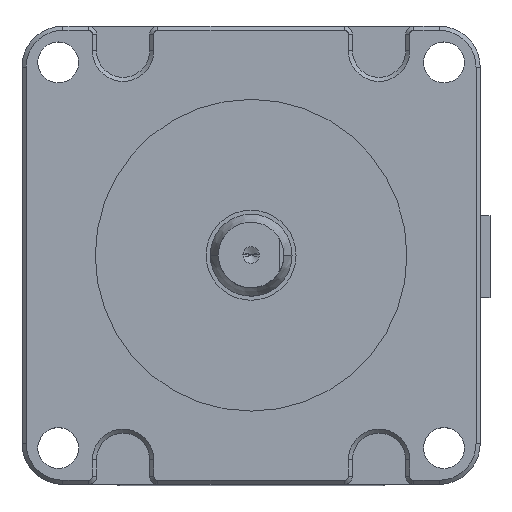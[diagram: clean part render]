
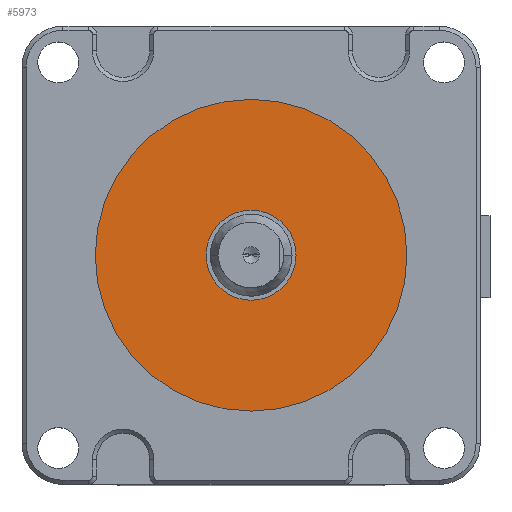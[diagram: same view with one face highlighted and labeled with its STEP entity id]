
A CAD part, top view. The second image highlights one B-rep face of the part: STEP entity #5973.
In plain terms, the highlighted planar face has unit normal (0, 0, 1).
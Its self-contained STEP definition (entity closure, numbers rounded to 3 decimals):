
#146=CARTESIAN_POINT('',(28.,28.,56.6));
#147=DIRECTION('',(0.,0.,1.));
#148=DIRECTION('',(1.,0.,0.));
#149=AXIS2_PLACEMENT_3D('',#146,#147,#148);
#151=CARTESIAN_POINT('',(28.,28.,56.6));
#152=DIRECTION('',(0.,0.,1.));
#153=DIRECTION('',(-1.,0.,0.));
#154=AXIS2_PLACEMENT_3D('',#151,#152,#153);
#156=CARTESIAN_POINT('',(28.,28.,56.6));
#157=DIRECTION('',(0.,0.,-1.));
#158=DIRECTION('',(1.,0.,0.));
#159=AXIS2_PLACEMENT_3D('',#156,#157,#158);
#161=CARTESIAN_POINT('',(28.,28.,56.6));
#162=DIRECTION('',(0.,0.,-1.));
#163=DIRECTION('',(-1.,0.,0.));
#164=AXIS2_PLACEMENT_3D('',#161,#162,#163);
#5666=CARTESIAN_POINT('',(47.05,28.,56.6));
#5667=CARTESIAN_POINT('',(8.95,28.,56.6));
#5668=VERTEX_POINT('',#5666);
#5669=VERTEX_POINT('',#5667);
#5670=CARTESIAN_POINT('',(33.5,28.,56.6));
#5671=CARTESIAN_POINT('',(22.5,28.,56.6));
#5672=VERTEX_POINT('',#5670);
#5673=VERTEX_POINT('',#5671);
#5958=CARTESIAN_POINT('',(0.,0.,56.6));
#5959=DIRECTION('',(0.,0.,1.));
#5960=DIRECTION('',(1.,0.,0.));
#5961=AXIS2_PLACEMENT_3D('',#5958,#5959,#5960);
#5962=PLANE('',#5961);
#5964=ORIENTED_EDGE('',*,*,#5963,.F.);
#5966=ORIENTED_EDGE('',*,*,#5965,.F.);
#5967=EDGE_LOOP('',(#5964,#5966));
#5968=FACE_OUTER_BOUND('',#5967,.F.);
#5969=ORIENTED_EDGE('',*,*,#5937,.F.);
#5970=ORIENTED_EDGE('',*,*,#5951,.F.);
#5971=EDGE_LOOP('',(#5969,#5970));
#5972=FACE_BOUND('',#5971,.F.);
#5973=ADVANCED_FACE('',(#5968,#5972),#5962,.T.);
#150=CIRCLE('',#149,19.05);
#155=CIRCLE('',#154,19.05);
#160=CIRCLE('',#159,5.5);
#165=CIRCLE('',#164,5.5);
#5937=EDGE_CURVE('',#5672,#5673,#160,.T.);
#5951=EDGE_CURVE('',#5673,#5672,#165,.T.);
#5963=EDGE_CURVE('',#5668,#5669,#150,.T.);
#5965=EDGE_CURVE('',#5669,#5668,#155,.T.);
